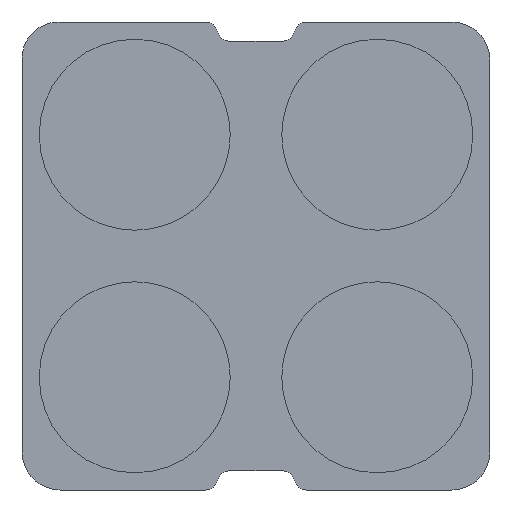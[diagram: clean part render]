
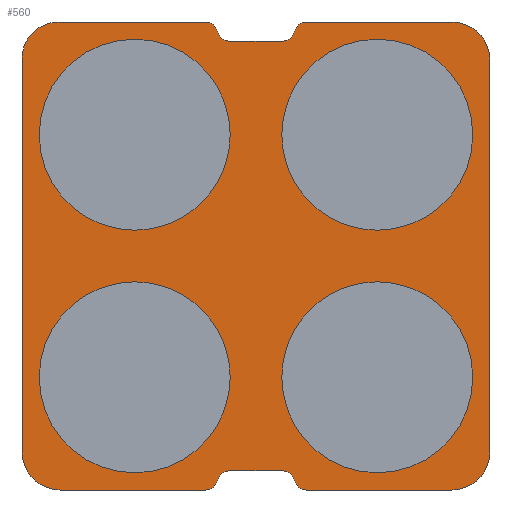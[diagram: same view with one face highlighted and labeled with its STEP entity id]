
A CAD part, left-side view. The second image highlights one B-rep face of the part: STEP entity #560.
In plain terms, the highlighted planar face has unit normal (-1, 0, 0).
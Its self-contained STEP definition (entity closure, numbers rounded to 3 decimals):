
#1=CARTESIAN_POINT('',(0.,1.27,1.27));
#2=DIRECTION('',(-1.,0.,0.));
#3=DIRECTION('',(0.,-1.,0.));
#4=AXIS2_PLACEMENT_3D('',#1,#2,#3);
#6=CARTESIAN_POINT('',(0.,1.27,1.27));
#7=DIRECTION('',(-1.,0.,0.));
#8=DIRECTION('',(0.,1.,0.));
#9=AXIS2_PLACEMENT_3D('',#6,#7,#8);
#11=CARTESIAN_POINT('',(0.,-1.27,1.27));
#12=DIRECTION('',(-1.,0.,0.));
#13=DIRECTION('',(0.,-1.,0.));
#14=AXIS2_PLACEMENT_3D('',#11,#12,#13);
#16=CARTESIAN_POINT('',(0.,-1.27,1.27));
#17=DIRECTION('',(-1.,0.,0.));
#18=DIRECTION('',(0.,1.,0.));
#19=AXIS2_PLACEMENT_3D('',#16,#17,#18);
#21=CARTESIAN_POINT('',(0.,-1.27,-1.27));
#22=DIRECTION('',(-1.,0.,0.));
#23=DIRECTION('',(0.,-1.,0.));
#24=AXIS2_PLACEMENT_3D('',#21,#22,#23);
#26=CARTESIAN_POINT('',(0.,-1.27,-1.27));
#27=DIRECTION('',(-1.,0.,0.));
#28=DIRECTION('',(0.,1.,0.));
#29=AXIS2_PLACEMENT_3D('',#26,#27,#28);
#31=CARTESIAN_POINT('',(0.,1.27,-1.27));
#32=DIRECTION('',(-1.,0.,0.));
#33=DIRECTION('',(0.,-1.,0.));
#34=AXIS2_PLACEMENT_3D('',#31,#32,#33);
#36=CARTESIAN_POINT('',(0.,1.27,-1.27));
#37=DIRECTION('',(-1.,0.,0.));
#38=DIRECTION('',(0.,1.,0.));
#39=AXIS2_PLACEMENT_3D('',#36,#37,#38);
#41=CARTESIAN_POINT('',(0.,2.067,2.067));
#42=DIRECTION('',(1.,0.,0.));
#43=DIRECTION('',(0.,1.,0.008));
#44=AXIS2_PLACEMENT_3D('',#41,#42,#43);
#46=DIRECTION('',(0.,-1.,0.));
#47=VECTOR('',#46,1.52);
#48=CARTESIAN_POINT('',(0.,2.05,2.45));
#49=LINE('',#48,#47);
#50=CARTESIAN_POINT('',(0.,0.53,2.32));
#51=DIRECTION('',(1.,0.,0.));
#52=DIRECTION('',(0.,0.,1.));
#53=AXIS2_PLACEMENT_3D('',#50,#51,#52);
#55=CARTESIAN_POINT('',(0.,0.277,2.38));
#56=DIRECTION('',(-1.,0.,0.));
#57=DIRECTION('',(0.,0.973,-0.231));
#58=AXIS2_PLACEMENT_3D('',#55,#56,#57);
#60=DIRECTION('',(0.,-1.,0.));
#61=VECTOR('',#60,0.554);
#62=CARTESIAN_POINT('',(0.,0.277,2.25));
#63=LINE('',#62,#61);
#64=CARTESIAN_POINT('',(0.,-0.277,2.38));
#65=DIRECTION('',(-1.,0.,0.));
#66=DIRECTION('',(0.,0.,-1.));
#67=AXIS2_PLACEMENT_3D('',#64,#65,#66);
#69=CARTESIAN_POINT('',(0.,-0.53,2.32));
#70=DIRECTION('',(1.,0.,0.));
#71=DIRECTION('',(0.,0.973,0.231));
#72=AXIS2_PLACEMENT_3D('',#69,#70,#71);
#74=DIRECTION('',(0.,-1.,0.));
#75=VECTOR('',#74,1.52);
#76=CARTESIAN_POINT('',(0.,-0.53,2.45));
#77=LINE('',#76,#75);
#78=CARTESIAN_POINT('',(0.,-2.05,2.05));
#79=DIRECTION('',(1.,0.,0.));
#80=DIRECTION('',(0.,0.,1.));
#81=AXIS2_PLACEMENT_3D('',#78,#79,#80);
#83=DIRECTION('',(0.,0.,-1.));
#84=VECTOR('',#83,4.1);
#85=CARTESIAN_POINT('',(0.,-2.45,2.05));
#86=LINE('',#85,#84);
#87=CARTESIAN_POINT('',(0.,-2.05,-2.05));
#88=DIRECTION('',(1.,0.,0.));
#89=DIRECTION('',(0.,-1.,0.));
#90=AXIS2_PLACEMENT_3D('',#87,#88,#89);
#92=DIRECTION('',(0.,1.,0.));
#93=VECTOR('',#92,1.52);
#94=CARTESIAN_POINT('',(0.,-2.05,-2.45));
#95=LINE('',#94,#93);
#96=CARTESIAN_POINT('',(0.,-0.53,-2.32));
#97=DIRECTION('',(1.,0.,0.));
#98=DIRECTION('',(0.,0.,-1.));
#99=AXIS2_PLACEMENT_3D('',#96,#97,#98);
#101=CARTESIAN_POINT('',(0.,-0.277,-2.38));
#102=DIRECTION('',(-1.,0.,0.));
#103=DIRECTION('',(0.,-0.973,0.231));
#104=AXIS2_PLACEMENT_3D('',#101,#102,#103);
#106=DIRECTION('',(0.,1.,0.));
#107=VECTOR('',#106,0.554);
#108=CARTESIAN_POINT('',(0.,-0.277,-2.25));
#109=LINE('',#108,#107);
#110=CARTESIAN_POINT('',(0.,0.277,-2.38));
#111=DIRECTION('',(-1.,0.,0.));
#112=DIRECTION('',(0.,0.,1.));
#113=AXIS2_PLACEMENT_3D('',#110,#111,#112);
#115=CARTESIAN_POINT('',(0.,0.53,-2.32));
#116=DIRECTION('',(1.,0.,0.));
#117=DIRECTION('',(0.,-0.973,-0.231));
#118=AXIS2_PLACEMENT_3D('',#115,#116,#117);
#120=DIRECTION('',(0.,1.,0.));
#121=VECTOR('',#120,1.52);
#122=CARTESIAN_POINT('',(0.,0.53,-2.45));
#123=LINE('',#122,#121);
#124=CARTESIAN_POINT('',(0.,2.05,-2.05));
#125=DIRECTION('',(1.,0.,0.));
#126=DIRECTION('',(0.,0.,-1.));
#127=AXIS2_PLACEMENT_3D('',#124,#125,#126);
#129=DIRECTION('',(0.,0.,1.));
#130=VECTOR('',#129,4.12);
#131=CARTESIAN_POINT('',(0.,2.45,-2.05));
#132=LINE('',#131,#130);
#377=CARTESIAN_POINT('',(0.,0.52,1.27));
#378=CARTESIAN_POINT('',(0.,2.02,1.27));
#379=VERTEX_POINT('',#377);
#380=VERTEX_POINT('',#378);
#381=CARTESIAN_POINT('',(0.,-2.02,1.27));
#382=CARTESIAN_POINT('',(0.,-0.52,1.27));
#383=VERTEX_POINT('',#381);
#384=VERTEX_POINT('',#382);
#385=CARTESIAN_POINT('',(0.,-2.02,-1.27));
#386=CARTESIAN_POINT('',(0.,-0.52,-1.27));
#387=VERTEX_POINT('',#385);
#388=VERTEX_POINT('',#386);
#389=CARTESIAN_POINT('',(0.,0.52,-1.27));
#390=CARTESIAN_POINT('',(0.,2.02,-1.27));
#391=VERTEX_POINT('',#389);
#392=VERTEX_POINT('',#390);
#393=CARTESIAN_POINT('',(0.,2.45,2.07));
#394=CARTESIAN_POINT('',(0.,2.05,2.45));
#395=VERTEX_POINT('',#393);
#396=VERTEX_POINT('',#394);
#397=CARTESIAN_POINT('',(0.,0.53,2.45));
#398=VERTEX_POINT('',#397);
#399=CARTESIAN_POINT('',(0.,0.404,2.35));
#400=VERTEX_POINT('',#399);
#401=CARTESIAN_POINT('',(0.,0.277,2.25));
#402=VERTEX_POINT('',#401);
#403=CARTESIAN_POINT('',(0.,-0.277,2.25));
#404=VERTEX_POINT('',#403);
#405=CARTESIAN_POINT('',(0.,-0.404,2.35));
#406=VERTEX_POINT('',#405);
#407=CARTESIAN_POINT('',(0.,-0.53,2.45));
#408=VERTEX_POINT('',#407);
#409=CARTESIAN_POINT('',(0.,-2.05,2.45));
#410=VERTEX_POINT('',#409);
#411=CARTESIAN_POINT('',(0.,-2.45,2.05));
#412=VERTEX_POINT('',#411);
#413=CARTESIAN_POINT('',(0.,-2.45,-2.05));
#414=VERTEX_POINT('',#413);
#415=CARTESIAN_POINT('',(0.,-2.05,-2.45));
#416=VERTEX_POINT('',#415);
#417=CARTESIAN_POINT('',(0.,-0.53,-2.45));
#418=VERTEX_POINT('',#417);
#419=CARTESIAN_POINT('',(0.,-0.404,-2.35));
#420=VERTEX_POINT('',#419);
#421=CARTESIAN_POINT('',(0.,-0.277,-2.25));
#422=VERTEX_POINT('',#421);
#423=CARTESIAN_POINT('',(0.,0.277,-2.25));
#424=VERTEX_POINT('',#423);
#425=CARTESIAN_POINT('',(0.,0.404,-2.35));
#426=VERTEX_POINT('',#425);
#427=CARTESIAN_POINT('',(0.,0.53,-2.45));
#428=VERTEX_POINT('',#427);
#429=CARTESIAN_POINT('',(0.,2.05,-2.45));
#430=VERTEX_POINT('',#429);
#431=CARTESIAN_POINT('',(0.,2.45,-2.05));
#432=VERTEX_POINT('',#431);
#489=CARTESIAN_POINT('',(0.,0.,0.));
#490=DIRECTION('',(1.,0.,0.));
#491=DIRECTION('',(0.,-1.,0.));
#492=AXIS2_PLACEMENT_3D('',#489,#490,#491);
#493=PLANE('',#492);
#495=ORIENTED_EDGE('',*,*,#494,.T.);
#497=ORIENTED_EDGE('',*,*,#496,.T.);
#499=ORIENTED_EDGE('',*,*,#498,.T.);
#501=ORIENTED_EDGE('',*,*,#500,.T.);
#503=ORIENTED_EDGE('',*,*,#502,.T.);
#505=ORIENTED_EDGE('',*,*,#504,.T.);
#507=ORIENTED_EDGE('',*,*,#506,.T.);
#509=ORIENTED_EDGE('',*,*,#508,.T.);
#511=ORIENTED_EDGE('',*,*,#510,.T.);
#513=ORIENTED_EDGE('',*,*,#512,.T.);
#515=ORIENTED_EDGE('',*,*,#514,.T.);
#517=ORIENTED_EDGE('',*,*,#516,.T.);
#519=ORIENTED_EDGE('',*,*,#518,.T.);
#521=ORIENTED_EDGE('',*,*,#520,.T.);
#523=ORIENTED_EDGE('',*,*,#522,.T.);
#525=ORIENTED_EDGE('',*,*,#524,.T.);
#527=ORIENTED_EDGE('',*,*,#526,.T.);
#529=ORIENTED_EDGE('',*,*,#528,.T.);
#531=ORIENTED_EDGE('',*,*,#530,.T.);
#533=ORIENTED_EDGE('',*,*,#532,.T.);
#534=EDGE_LOOP('',(#495,#497,#499,#501,#503,#505,#507,#509,#511,#513,#515,#517,
#519,#521,#523,#525,#527,#529,#531,#533));
#535=FACE_OUTER_BOUND('',#534,.F.);
#537=ORIENTED_EDGE('',*,*,#536,.T.);
#539=ORIENTED_EDGE('',*,*,#538,.T.);
#540=EDGE_LOOP('',(#537,#539));
#541=FACE_BOUND('',#540,.F.);
#543=ORIENTED_EDGE('',*,*,#542,.T.);
#545=ORIENTED_EDGE('',*,*,#544,.T.);
#546=EDGE_LOOP('',(#543,#545));
#547=FACE_BOUND('',#546,.F.);
#549=ORIENTED_EDGE('',*,*,#548,.T.);
#551=ORIENTED_EDGE('',*,*,#550,.T.);
#552=EDGE_LOOP('',(#549,#551));
#553=FACE_BOUND('',#552,.F.);
#555=ORIENTED_EDGE('',*,*,#554,.T.);
#557=ORIENTED_EDGE('',*,*,#556,.T.);
#558=EDGE_LOOP('',(#555,#557));
#559=FACE_BOUND('',#558,.F.);
#560=ADVANCED_FACE('',(#535,#541,#547,#553,#559),#493,.F.);
#5=CIRCLE('',#4,0.75);
#10=CIRCLE('',#9,0.75);
#15=CIRCLE('',#14,0.75);
#20=CIRCLE('',#19,0.75);
#25=CIRCLE('',#24,0.75);
#30=CIRCLE('',#29,0.75);
#35=CIRCLE('',#34,0.75);
#40=CIRCLE('',#39,0.75);
#45=CIRCLE('',#44,0.383);
#54=CIRCLE('',#53,0.13);
#59=CIRCLE('',#58,0.13);
#68=CIRCLE('',#67,0.13);
#73=CIRCLE('',#72,0.13);
#82=CIRCLE('',#81,0.4);
#91=CIRCLE('',#90,0.4);
#100=CIRCLE('',#99,0.13);
#105=CIRCLE('',#104,0.13);
#114=CIRCLE('',#113,0.13);
#119=CIRCLE('',#118,0.13);
#128=CIRCLE('',#127,0.4);
#494=EDGE_CURVE('',#395,#396,#45,.T.);
#496=EDGE_CURVE('',#396,#398,#49,.T.);
#498=EDGE_CURVE('',#398,#400,#54,.T.);
#500=EDGE_CURVE('',#400,#402,#59,.T.);
#502=EDGE_CURVE('',#402,#404,#63,.T.);
#504=EDGE_CURVE('',#404,#406,#68,.T.);
#506=EDGE_CURVE('',#406,#408,#73,.T.);
#508=EDGE_CURVE('',#408,#410,#77,.T.);
#510=EDGE_CURVE('',#410,#412,#82,.T.);
#512=EDGE_CURVE('',#412,#414,#86,.T.);
#514=EDGE_CURVE('',#414,#416,#91,.T.);
#516=EDGE_CURVE('',#416,#418,#95,.T.);
#518=EDGE_CURVE('',#418,#420,#100,.T.);
#520=EDGE_CURVE('',#420,#422,#105,.T.);
#522=EDGE_CURVE('',#422,#424,#109,.T.);
#524=EDGE_CURVE('',#424,#426,#114,.T.);
#526=EDGE_CURVE('',#426,#428,#119,.T.);
#528=EDGE_CURVE('',#428,#430,#123,.T.);
#530=EDGE_CURVE('',#430,#432,#128,.T.);
#532=EDGE_CURVE('',#432,#395,#132,.T.);
#536=EDGE_CURVE('',#383,#384,#15,.T.);
#538=EDGE_CURVE('',#384,#383,#20,.T.);
#542=EDGE_CURVE('',#387,#388,#25,.T.);
#544=EDGE_CURVE('',#388,#387,#30,.T.);
#548=EDGE_CURVE('',#391,#392,#35,.T.);
#550=EDGE_CURVE('',#392,#391,#40,.T.);
#554=EDGE_CURVE('',#379,#380,#5,.T.);
#556=EDGE_CURVE('',#380,#379,#10,.T.);
